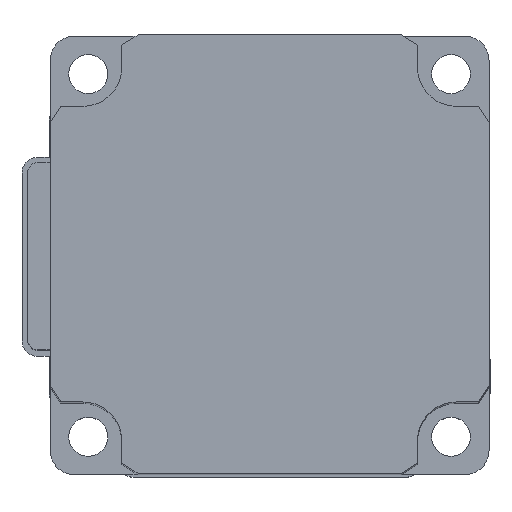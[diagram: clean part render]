
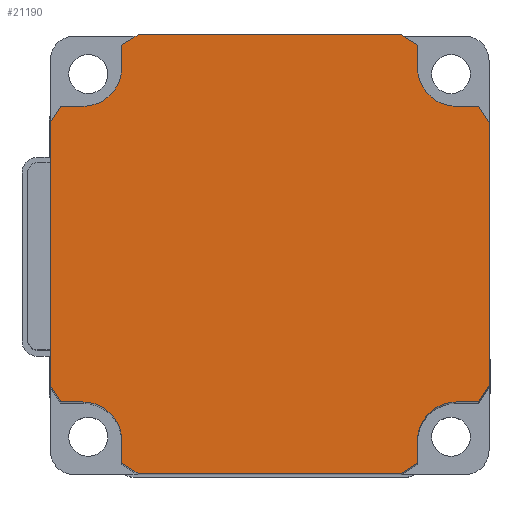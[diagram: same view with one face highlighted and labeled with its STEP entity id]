
A CAD part, top view. The second image highlights one B-rep face of the part: STEP entity #21190.
In plain terms, the highlighted planar face has unit normal (0, 0, 1).
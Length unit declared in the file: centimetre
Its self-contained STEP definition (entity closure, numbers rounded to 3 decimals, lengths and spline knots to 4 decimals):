
#6450=VERTEX_POINT('',#48258);
#6451=VERTEX_POINT('',#48259);
#6454=VERTEX_POINT('',#48267);
#6456=VERTEX_POINT('',#48273);
#6457=VERTEX_POINT('',#48274);
#6460=VERTEX_POINT('',#48282);
#6462=VERTEX_POINT('',#48288);
#6464=VERTEX_POINT('',#48294);
#6466=VERTEX_POINT('',#48300);
#6468=VERTEX_POINT('',#48306);
#6469=VERTEX_POINT('',#48307);
#6472=VERTEX_POINT('',#48315);
#6474=VERTEX_POINT('',#48321);
#6476=VERTEX_POINT('',#48327);
#6478=VERTEX_POINT('',#48333);
#6480=VERTEX_POINT('',#48339);
#6481=VERTEX_POINT('',#48340);
#6484=VERTEX_POINT('',#48348);
#6486=VERTEX_POINT('',#48354);
#6488=VERTEX_POINT('',#48360);
#6490=VERTEX_POINT('',#48366);
#6492=VERTEX_POINT('',#48372);
#6493=VERTEX_POINT('',#48373);
#6496=VERTEX_POINT('',#48381);
#8629=EDGE_CURVE('',#6450,#6451,#24927,.T.);
#8633=EDGE_CURVE('',#6451,#6454,#24931,.T.);
#8636=EDGE_CURVE('',#6456,#6457,#24934,.T.);
#8640=EDGE_CURVE('',#6457,#6460,#24938,.T.);
#8643=EDGE_CURVE('',#6460,#6462,#27696,.T.);
#8646=EDGE_CURVE('',#6462,#6464,#24942,.T.);
#8649=EDGE_CURVE('',#6464,#6466,#24945,.T.);
#8652=EDGE_CURVE('',#6468,#6469,#24948,.T.);
#8656=EDGE_CURVE('',#6469,#6472,#24952,.T.);
#8659=EDGE_CURVE('',#6472,#6474,#27698,.T.);
#8662=EDGE_CURVE('',#6474,#6476,#24956,.T.);
#8665=EDGE_CURVE('',#6476,#6478,#24959,.T.);
#8668=EDGE_CURVE('',#6480,#6481,#24962,.T.);
#8672=EDGE_CURVE('',#6481,#6484,#24966,.T.);
#8675=EDGE_CURVE('',#6484,#6486,#27700,.T.);
#8678=EDGE_CURVE('',#6486,#6488,#24970,.T.);
#8681=EDGE_CURVE('',#6488,#6490,#24973,.T.);
#8684=EDGE_CURVE('',#6492,#6493,#24976,.T.);
#8688=EDGE_CURVE('',#6493,#6496,#24980,.T.);
#8691=EDGE_CURVE('',#6496,#6450,#27702,.T.);
#8693=EDGE_CURVE('',#6490,#6492,#24983,.T.);
#8694=EDGE_CURVE('',#6478,#6480,#24984,.T.);
#8695=EDGE_CURVE('',#6466,#6468,#24985,.T.);
#8696=EDGE_CURVE('',#6454,#6456,#24986,.T.);
#11972=ORIENTED_EDGE('',*,*,#8629,.F.);
#11973=ORIENTED_EDGE('',*,*,#8691,.F.);
#11974=ORIENTED_EDGE('',*,*,#8688,.F.);
#11975=ORIENTED_EDGE('',*,*,#8684,.F.);
#11976=ORIENTED_EDGE('',*,*,#8693,.F.);
#11977=ORIENTED_EDGE('',*,*,#8681,.F.);
#11978=ORIENTED_EDGE('',*,*,#8678,.F.);
#11979=ORIENTED_EDGE('',*,*,#8675,.F.);
#11980=ORIENTED_EDGE('',*,*,#8672,.F.);
#11981=ORIENTED_EDGE('',*,*,#8668,.F.);
#11982=ORIENTED_EDGE('',*,*,#8694,.F.);
#11983=ORIENTED_EDGE('',*,*,#8665,.F.);
#11984=ORIENTED_EDGE('',*,*,#8662,.F.);
#11985=ORIENTED_EDGE('',*,*,#8659,.F.);
#11986=ORIENTED_EDGE('',*,*,#8656,.F.);
#11987=ORIENTED_EDGE('',*,*,#8652,.F.);
#11988=ORIENTED_EDGE('',*,*,#8695,.F.);
#11989=ORIENTED_EDGE('',*,*,#8649,.F.);
#11990=ORIENTED_EDGE('',*,*,#8646,.F.);
#11991=ORIENTED_EDGE('',*,*,#8643,.F.);
#11992=ORIENTED_EDGE('',*,*,#8640,.F.);
#11993=ORIENTED_EDGE('',*,*,#8636,.F.);
#11994=ORIENTED_EDGE('',*,*,#8696,.F.);
#11995=ORIENTED_EDGE('',*,*,#8633,.F.);
#18500=EDGE_LOOP('',(#11972,#11973,#11974,#11975,#11976,#11977,#11978,#11979,
#11980,#11981,#11982,#11983,#11984,#11985,#11986,#11987,#11988,#11989,#11990,
#11991,#11992,#11993,#11994,#11995));
#19845=FACE_BOUND('',#18500,.T.);
#21190=ADVANCED_FACE('',(#19845),#46798,.T.);
#24927=LINE('',#48257,#44054);
#24931=LINE('',#48266,#44058);
#24934=LINE('',#48272,#44061);
#24938=LINE('',#48281,#44065);
#24942=LINE('',#48293,#44069);
#24945=LINE('',#48299,#44072);
#24948=LINE('',#48305,#44075);
#24952=LINE('',#48314,#44079);
#24956=LINE('',#48326,#44083);
#24959=LINE('',#48332,#44086);
#24962=LINE('',#48338,#44089);
#24966=LINE('',#48347,#44093);
#24970=LINE('',#48359,#44097);
#24973=LINE('',#48365,#44100);
#24976=LINE('',#48371,#44103);
#24980=LINE('',#48380,#44107);
#24983=LINE('',#48389,#44110);
#24984=LINE('',#48390,#44111);
#24985=LINE('',#48391,#44112);
#24986=LINE('',#48392,#44113);
#27696=CIRCLE('',#43041,0.508);
#27698=CIRCLE('',#43048,0.508);
#27700=CIRCLE('',#43055,0.508);
#27702=CIRCLE('',#43062,0.508);
#43041=AXIS2_PLACEMENT_3D('',#48287,#66077,#66078);
#43048=AXIS2_PLACEMENT_3D('',#48320,#66101,#66102);
#43055=AXIS2_PLACEMENT_3D('',#48353,#66125,#66126);
#43062=AXIS2_PLACEMENT_3D('',#48386,#66149,#66150);
#43064=AXIS2_PLACEMENT_3D('',#48388,#66153,$);
#44054=VECTOR('',#66058,1.);
#44058=VECTOR('',#66063,1.);
#44061=VECTOR('',#66067,1.);
#44065=VECTOR('',#66072,1.);
#44069=VECTOR('',#66083,1.);
#44072=VECTOR('',#66087,1.);
#44075=VECTOR('',#66091,1.);
#44079=VECTOR('',#66096,1.);
#44083=VECTOR('',#66107,1.);
#44086=VECTOR('',#66111,1.);
#44089=VECTOR('',#66115,1.);
#44093=VECTOR('',#66120,1.);
#44097=VECTOR('',#66131,1.);
#44100=VECTOR('',#66135,1.);
#44103=VECTOR('',#66139,1.);
#44107=VECTOR('',#66144,1.);
#44110=VECTOR('',#66154,1.);
#44111=VECTOR('',#66155,1.);
#44112=VECTOR('',#66156,1.);
#44113=VECTOR('',#66157,1.);
#46798=PLANE('',#43064);
#48257=CARTESIAN_POINT('',(-1.9253,2.4333,10.3124));
#48258=CARTESIAN_POINT('',(-1.9253,2.4333,10.3124));
#48259=CARTESIAN_POINT('',(-1.9253,2.7203,10.3124));
#48266=CARTESIAN_POINT('',(-1.9253,2.7203,10.3124));
#48267=CARTESIAN_POINT('',(-1.7145,2.8575,10.3124));
#48272=CARTESIAN_POINT('',(1.7145,2.8575,10.3124));
#48273=CARTESIAN_POINT('',(1.7145,2.8575,10.3124));
#48274=CARTESIAN_POINT('',(1.9253,2.7203,10.3124));
#48281=CARTESIAN_POINT('',(1.9253,2.7203,10.3124));
#48282=CARTESIAN_POINT('',(1.9253,2.4333,10.3124));
#48287=CARTESIAN_POINT('',(2.4333,2.4333,10.3124));
#48288=CARTESIAN_POINT('',(2.4333,1.9253,10.3124));
#48293=CARTESIAN_POINT('',(2.4333,1.9253,10.3124));
#48294=CARTESIAN_POINT('',(2.7203,1.9253,10.3124));
#48299=CARTESIAN_POINT('',(2.7203,1.9253,10.3124));
#48300=CARTESIAN_POINT('',(2.8575,1.7145,10.3124));
#48305=CARTESIAN_POINT('',(2.8575,-1.7145,10.3124));
#48306=CARTESIAN_POINT('',(2.8575,-1.7145,10.3124));
#48307=CARTESIAN_POINT('',(2.7203,-1.9253,10.3124));
#48314=CARTESIAN_POINT('',(2.7203,-1.9253,10.3124));
#48315=CARTESIAN_POINT('',(2.4333,-1.9253,10.3124));
#48320=CARTESIAN_POINT('',(2.4333,-2.4333,10.3124));
#48321=CARTESIAN_POINT('',(1.9253,-2.4333,10.3124));
#48326=CARTESIAN_POINT('',(1.9253,-2.4333,10.3124));
#48327=CARTESIAN_POINT('',(1.9253,-2.7203,10.3124));
#48332=CARTESIAN_POINT('',(1.9253,-2.7203,10.3124));
#48333=CARTESIAN_POINT('',(1.7145,-2.8575,10.3124));
#48338=CARTESIAN_POINT('',(-1.7145,-2.8575,10.3124));
#48339=CARTESIAN_POINT('',(-1.7145,-2.8575,10.3124));
#48340=CARTESIAN_POINT('',(-1.9253,-2.7203,10.3124));
#48347=CARTESIAN_POINT('',(-1.9253,-2.7203,10.3124));
#48348=CARTESIAN_POINT('',(-1.9253,-2.4333,10.3124));
#48353=CARTESIAN_POINT('',(-2.4333,-2.4333,10.3124));
#48354=CARTESIAN_POINT('',(-2.4333,-1.9253,10.3124));
#48359=CARTESIAN_POINT('',(-2.4333,-1.9253,10.3124));
#48360=CARTESIAN_POINT('',(-2.7203,-1.9253,10.3124));
#48365=CARTESIAN_POINT('',(-2.7203,-1.9253,10.3124));
#48366=CARTESIAN_POINT('',(-2.8575,-1.7145,10.3124));
#48371=CARTESIAN_POINT('',(-2.8575,1.7145,10.3124));
#48372=CARTESIAN_POINT('',(-2.8575,1.7145,10.3124));
#48373=CARTESIAN_POINT('',(-2.7203,1.9253,10.3124));
#48380=CARTESIAN_POINT('',(-2.7203,1.9253,10.3124));
#48381=CARTESIAN_POINT('',(-2.4333,1.9253,10.3124));
#48386=CARTESIAN_POINT('',(-2.4333,2.4333,10.3124));
#48388=CARTESIAN_POINT('',(0.,0.,
10.3124));
#48389=CARTESIAN_POINT('',(-2.8575,-1.7145,10.3124));
#48390=CARTESIAN_POINT('',(1.7145,-2.8575,10.3124));
#48391=CARTESIAN_POINT('',(2.8575,1.7145,10.3124));
#48392=CARTESIAN_POINT('',(-1.7145,2.8575,10.3124));
#66058=DIRECTION('',(0.,1.,0.));
#66063=DIRECTION('',(0.838,0.545,0.));
#66067=DIRECTION('',(0.838,-0.545,0.));
#66072=DIRECTION('',(0.,-1.,0.));
#66077=DIRECTION('',(0.,0.,1.));
#66078=DIRECTION('',(0.508,0.,0.));
#66083=DIRECTION('',(1.,0.,0.));
#66087=DIRECTION('',(0.545,-0.838,0.));
#66091=DIRECTION('',(-0.545,-0.838,0.));
#66096=DIRECTION('',(-1.,0.,0.));
#66101=DIRECTION('',(0.,0.,1.));
#66102=DIRECTION('',(0.508,0.,0.));
#66107=DIRECTION('',(0.,-1.,0.));
#66111=DIRECTION('',(-0.838,-0.545,0.));
#66115=DIRECTION('',(-0.838,0.545,0.));
#66120=DIRECTION('',(0.,1.,0.));
#66125=DIRECTION('',(0.,0.,1.));
#66126=DIRECTION('',(0.508,0.,0.));
#66131=DIRECTION('',(-1.,0.,0.));
#66135=DIRECTION('',(-0.545,0.838,0.));
#66139=DIRECTION('',(0.545,0.838,0.));
#66144=DIRECTION('',(1.,0.,0.));
#66149=DIRECTION('',(0.,0.,1.));
#66150=DIRECTION('',(0.508,0.,0.));
#66153=DIRECTION('',(0.,0.,1.));
#66154=DIRECTION('',(0.,1.,0.));
#66155=DIRECTION('',(-1.,0.,0.));
#66156=DIRECTION('',(0.,-1.,0.));
#66157=DIRECTION('',(1.,0.,0.));
